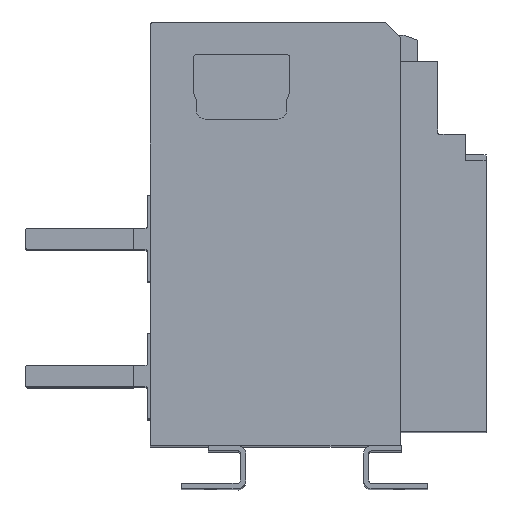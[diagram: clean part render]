
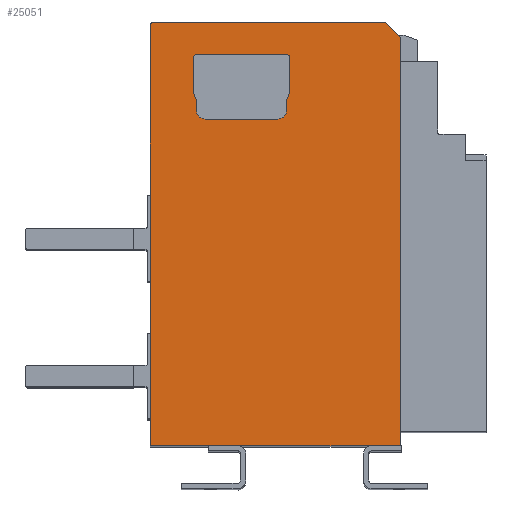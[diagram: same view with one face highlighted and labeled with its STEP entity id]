
A CAD part, top view. The second image highlights one B-rep face of the part: STEP entity #25051.
In plain terms, the highlighted planar face has unit normal (0, 0, 1).
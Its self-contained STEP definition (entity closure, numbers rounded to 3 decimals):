
#78 = CARTESIAN_POINT ( 'NONE',  ( 4501.86, 449.471, 786. ) ) ;
#401 = DIRECTION ( 'NONE',  ( 1., 0., 0. ) ) ;
#867 = CARTESIAN_POINT ( 'NONE',  ( 4585.86, 492.471, 786. ) ) ;
#957 = ORIENTED_EDGE ( 'NONE', *, *, #18849, .T. ) ;
#1008 = ORIENTED_EDGE ( 'NONE', *, *, #35906, .T. ) ;
#1925 = VERTEX_POINT ( 'NONE', #22789 ) ;
#2472 = EDGE_CURVE ( 'NONE', #6921, #18718, #39441, .T. ) ;
#2985 = CARTESIAN_POINT ( 'NONE',  ( 4691.86, 0., 786. ) ) ;
#3852 = VERTEX_POINT ( 'NONE', #23823 ) ;
#3965 = VECTOR ( 'NONE', #34894, 1000. ) ;
#4324 = VERTEX_POINT ( 'NONE', #11490 ) ;
#4569 = VECTOR ( 'NONE', #12689, 1000. ) ;
#4688 = ORIENTED_EDGE ( 'NONE', *, *, #4805, .F. ) ;
#4805 = EDGE_CURVE ( 'NONE', #4324, #31016, #17900, .T. ) ;
#5327 = ORIENTED_EDGE ( 'NONE', *, *, #11219, .F. ) ;
#5476 = CARTESIAN_POINT ( 'NONE',  ( 0., 492.471, 786. ) ) ;
#5544 = ORIENTED_EDGE ( 'NONE', *, *, #21553, .F. ) ;
#6540 = VECTOR ( 'NONE', #10727, 1000. ) ;
#6650 = CARTESIAN_POINT ( 'NONE',  ( 3872.709, -1452.266, 786. ) ) ;
#6748 = ORIENTED_EDGE ( 'NONE', *, *, #9044, .F. ) ;
#6811 = ORIENTED_EDGE ( 'NONE', *, *, #33158, .F. ) ;
#6921 = VERTEX_POINT ( 'NONE', #15114 ) ;
#7486 = CARTESIAN_POINT ( 'NONE',  ( 4498.86, 489.471, 786. ) ) ;
#7581 = EDGE_CURVE ( 'NONE', #31718, #24375, #8278, .T. ) ;
#7896 = ORIENTED_EDGE ( 'NONE', *, *, #12876, .F. ) ;
#8278 = LINE ( 'NONE', #37835, #21705 ) ;
#8722 = ORIENTED_EDGE ( 'NONE', *, *, #22008, .T. ) ;
#8836 = PLANE ( 'NONE',  #25456 ) ;
#8986 = CARTESIAN_POINT ( 'NONE',  ( 0., 0., 786. ) ) ;
#9044 = EDGE_CURVE ( 'NONE', #3852, #11945, #21626, .T. ) ;
#9414 = VERTEX_POINT ( 'NONE', #39347 ) ;
#9622 = DIRECTION ( 'NONE',  ( -1., 0., 0. ) ) ;
#9865 = LINE ( 'NONE', #12403, #11860 ) ;
#9878 = VERTEX_POINT ( 'NONE', #29022 ) ;
#9983 = CARTESIAN_POINT ( 'NONE',  ( 4501.86, 489.471, 786. ) ) ;
#10124 = DIRECTION ( 'NONE',  ( 0., 0., 1. ) ) ;
#10184 = LINE ( 'NONE', #20815, #12180 ) ;
#10484 = ORIENTED_EDGE ( 'NONE', *, *, #37520, .T. ) ;
#10727 = DIRECTION ( 'NONE',  ( 0., -1., 0. ) ) ;
#10876 = CARTESIAN_POINT ( 'NONE',  ( 2600.415, 2600.416, 786. ) ) ;
#11219 = EDGE_CURVE ( 'NONE', #1925, #3852, #28522, .T. ) ;
#11441 = CARTESIAN_POINT ( 'NONE',  ( 4585.86, 440.471, 786. ) ) ;
#11490 = CARTESIAN_POINT ( 'NONE',  ( 4691.86, 127.971, 786. ) ) ;
#11720 = VERTEX_POINT ( 'NONE', #78 ) ;
#11804 = EDGE_CURVE ( 'NONE', #11720, #35116, #37962, .T. ) ;
#11860 = VECTOR ( 'NONE', #16530, 1000. ) ;
#11945 = VERTEX_POINT ( 'NONE', #11441 ) ;
#11991 = VECTOR ( 'NONE', #22495, 1000. ) ;
#12175 = DIRECTION ( 'NONE',  ( 0., 0., 1. ) ) ;
#12180 = VECTOR ( 'NONE', #31154, 1000. ) ;
#12354 = CIRCLE ( 'NONE', #41044, 8. ) ;
#12403 = CARTESIAN_POINT ( 'NONE',  ( 0., 522.971, 786. ) ) ;
#12689 = DIRECTION ( 'NONE',  ( -0.351, 0.936, 0. ) ) ;
#12784 = VECTOR ( 'NONE', #33188, 1000. ) ;
#12876 = EDGE_CURVE ( 'NONE', #35116, #1925, #12354, .T. ) ;
#12958 = CARTESIAN_POINT ( 'NONE',  ( 0., 127.971, 786. ) ) ;
#14727 = AXIS2_PLACEMENT_3D ( 'NONE', #26300, #38709, #401 ) ;
#14924 = AXIS2_PLACEMENT_3D ( 'NONE', #24656, #15562, #24948 ) ;
#14980 = LINE ( 'NONE', #6650, #11991 ) ;
#15114 = CARTESIAN_POINT ( 'NONE',  ( 4501.86, 492.471, 786. ) ) ;
#15562 = DIRECTION ( 'NONE',  ( 0., 0., 1. ) ) ;
#16119 = CIRCLE ( 'NONE', #37122, 3. ) ;
#16530 = DIRECTION ( 'NONE',  ( 1., 0., 0. ) ) ;
#16984 = DIRECTION ( 'NONE',  ( 0., 0., 1. ) ) ;
#17127 = ORIENTED_EDGE ( 'NONE', *, *, #35924, .F. ) ;
#17709 = VERTEX_POINT ( 'NONE', #23723 ) ;
#17711 = CARTESIAN_POINT ( 'NONE',  ( 4588.86, 457.471, 786. ) ) ;
#17900 = LINE ( 'NONE', #12958, #24412 ) ;
#18354 = CARTESIAN_POINT ( 'NONE',  ( 4458.86, 127.971, 786. ) ) ;
#18546 = EDGE_LOOP ( 'NONE', ( #4688, #1008, #10484, #17127, #31268, #19283 ) ) ;
#18584 = DIRECTION ( 'NONE',  ( 1., 0., 0. ) ) ;
#18717 = CARTESIAN_POINT ( 'NONE',  ( 0., 432.471, 786. ) ) ;
#18718 = VERTEX_POINT ( 'NONE', #7486 ) ;
#18849 = EDGE_CURVE ( 'NONE', #9878, #11945, #10184, .T. ) ;
#18927 = DIRECTION ( 'NONE',  ( 0., 1., 0. ) ) ;
#19138 = ORIENTED_EDGE ( 'NONE', *, *, #7581, .F. ) ;
#19235 = EDGE_CURVE ( 'NONE', #24375, #31917, #16119, .T. ) ;
#19283 = ORIENTED_EDGE ( 'NONE', *, *, #35597, .F. ) ;
#19616 = VECTOR ( 'NONE', #37099, 1000. ) ;
#20316 = LINE ( 'NONE', #2985, #34851 ) ;
#20815 = CARTESIAN_POINT ( 'NONE',  ( 4585.86, 0., 786. ) ) ;
#21351 = DIRECTION ( 'NONE',  ( 0., 0., 1. ) ) ;
#21553 = EDGE_CURVE ( 'NONE', #9878, #31718, #14980, .T. ) ;
#21624 = LINE ( 'NONE', #5476, #19616 ) ;
#21626 = CIRCLE ( 'NONE', #14727, 8. ) ;
#21705 = VECTOR ( 'NONE', #28498, 1000. ) ;
#21889 = ORIENTED_EDGE ( 'NONE', *, *, #39376, .F. ) ;
#22008 = EDGE_CURVE ( 'NONE', #11720, #26881, #35461, .T. ) ;
#22354 = LINE ( 'NONE', #28356, #3965 ) ;
#22495 = DIRECTION ( 'NONE',  ( 0.351, 0.936, 0. ) ) ;
#22789 = CARTESIAN_POINT ( 'NONE',  ( 4509.86, 432.471, 786. ) ) ;
#23344 = ORIENTED_EDGE ( 'NONE', *, *, #2472, .F. ) ;
#23723 = CARTESIAN_POINT ( 'NONE',  ( 4677.86, 522.971, 786. ) ) ;
#23823 = CARTESIAN_POINT ( 'NONE',  ( 4577.86, 432.471, 786. ) ) ;
#23876 = VERTEX_POINT ( 'NONE', #29448 ) ;
#24375 = VERTEX_POINT ( 'NONE', #28620 ) ;
#24412 = VECTOR ( 'NONE', #9622, 1000. ) ;
#24634 = CARTESIAN_POINT ( 'NONE',  ( 4501.86, 440.471, 786. ) ) ;
#24656 = CARTESIAN_POINT ( 'NONE',  ( 4462.36, 519.471, 786. ) ) ;
#24948 = DIRECTION ( 'NONE',  ( 1., 0., 0. ) ) ;
#25051 = ADVANCED_FACE ( 'NONE', ( #29898, #26893 ), #8836, .T. ) ;
#25456 = AXIS2_PLACEMENT_3D ( 'NONE', #8986, #12175, #18584 ) ;
#26300 = CARTESIAN_POINT ( 'NONE',  ( 4577.86, 440.471, 786. ) ) ;
#26524 = CARTESIAN_POINT ( 'NONE',  ( 4462.36, 522.971, 786. ) ) ;
#26881 = VERTEX_POINT ( 'NONE', #38695 ) ;
#26893 = FACE_OUTER_BOUND ( 'NONE', #18546, .T. ) ;
#27248 = DIRECTION ( 'NONE',  ( 1., 0., 0. ) ) ;
#27491 = VECTOR ( 'NONE', #39602, 1000. ) ;
#28356 = CARTESIAN_POINT ( 'NONE',  ( 4458.86, 0., 786. ) ) ;
#28498 = DIRECTION ( 'NONE',  ( 0., 1., 0. ) ) ;
#28522 = LINE ( 'NONE', #18717, #30508 ) ;
#28620 = CARTESIAN_POINT ( 'NONE',  ( 4588.86, 489.471, 786. ) ) ;
#28880 = ORIENTED_EDGE ( 'NONE', *, *, #19235, .F. ) ;
#29022 = CARTESIAN_POINT ( 'NONE',  ( 4585.86, 449.471, 786. ) ) ;
#29448 = CARTESIAN_POINT ( 'NONE',  ( 4458.86, 519.471, 786. ) ) ;
#29898 = FACE_BOUND ( 'NONE', #33877, .T. ) ;
#30508 = VECTOR ( 'NONE', #41086, 1000. ) ;
#30956 = LINE ( 'NONE', #32758, #27491 ) ;
#31016 = VERTEX_POINT ( 'NONE', #18354 ) ;
#31154 = DIRECTION ( 'NONE',  ( 0., -1., 0. ) ) ;
#31268 = ORIENTED_EDGE ( 'NONE', *, *, #33366, .T. ) ;
#31403 = CARTESIAN_POINT ( 'NONE',  ( 4094.608, 1535.478, 786. ) ) ;
#31503 = CIRCLE ( 'NONE', #14924, 3.5 ) ;
#31718 = VERTEX_POINT ( 'NONE', #17711 ) ;
#31917 = VERTEX_POINT ( 'NONE', #867 ) ;
#32246 = LINE ( 'NONE', #10876, #12784 ) ;
#32308 = DIRECTION ( 'NONE',  ( 1., 0., 0. ) ) ;
#32646 = CARTESIAN_POINT ( 'NONE',  ( 4501.86, 0., 786. ) ) ;
#32758 = CARTESIAN_POINT ( 'NONE',  ( 4498.86, 0., 786. ) ) ;
#33158 = EDGE_CURVE ( 'NONE', #18718, #26881, #30956, .T. ) ;
#33188 = DIRECTION ( 'NONE',  ( -0.707, 0.707, 0. ) ) ;
#33366 = EDGE_CURVE ( 'NONE', #35729, #23876, #31503, .T. ) ;
#33877 = EDGE_LOOP ( 'NONE', ( #28880, #19138, #5544, #957, #6748, #5327, #7896, #37113, #8722, #6811, #23344, #21889 ) ) ;
#34851 = VECTOR ( 'NONE', #18927, 1000. ) ;
#34894 = DIRECTION ( 'NONE',  ( 0., 1., 0. ) ) ;
#35116 = VERTEX_POINT ( 'NONE', #24634 ) ;
#35461 = LINE ( 'NONE', #31403, #4569 ) ;
#35597 = EDGE_CURVE ( 'NONE', #31016, #23876, #22354, .T. ) ;
#35729 = VERTEX_POINT ( 'NONE', #26524 ) ;
#35906 = EDGE_CURVE ( 'NONE', #4324, #9414, #20316, .T. ) ;
#35924 = EDGE_CURVE ( 'NONE', #35729, #17709, #9865, .T. ) ;
#36138 = DIRECTION ( 'NONE',  ( 1., 0., 0. ) ) ;
#36692 = CARTESIAN_POINT ( 'NONE',  ( 4585.86, 489.471, 786. ) ) ;
#37099 = DIRECTION ( 'NONE',  ( -1., 0., 0. ) ) ;
#37113 = ORIENTED_EDGE ( 'NONE', *, *, #11804, .F. ) ;
#37122 = AXIS2_PLACEMENT_3D ( 'NONE', #36692, #16984, #36138 ) ;
#37520 = EDGE_CURVE ( 'NONE', #9414, #17709, #32246, .T. ) ;
#37835 = CARTESIAN_POINT ( 'NONE',  ( 4588.86, 0., 786. ) ) ;
#37962 = LINE ( 'NONE', #32646, #6540 ) ;
#38695 = CARTESIAN_POINT ( 'NONE',  ( 4498.86, 457.471, 786. ) ) ;
#38709 = DIRECTION ( 'NONE',  ( 0., 0., 1. ) ) ;
#39347 = CARTESIAN_POINT ( 'NONE',  ( 4691.86, 508.971, 786. ) ) ;
#39376 = EDGE_CURVE ( 'NONE', #31917, #6921, #21624, .T. ) ;
#39441 = CIRCLE ( 'NONE', #39741, 3. ) ;
#39602 = DIRECTION ( 'NONE',  ( 0., -1., 0. ) ) ;
#39741 = AXIS2_PLACEMENT_3D ( 'NONE', #9983, #10124, #32308 ) ;
#40361 = CARTESIAN_POINT ( 'NONE',  ( 4509.86, 440.471, 786. ) ) ;
#41044 = AXIS2_PLACEMENT_3D ( 'NONE', #40361, #21351, #27248 ) ;
#41086 = DIRECTION ( 'NONE',  ( 1., 0., 0. ) ) ;
